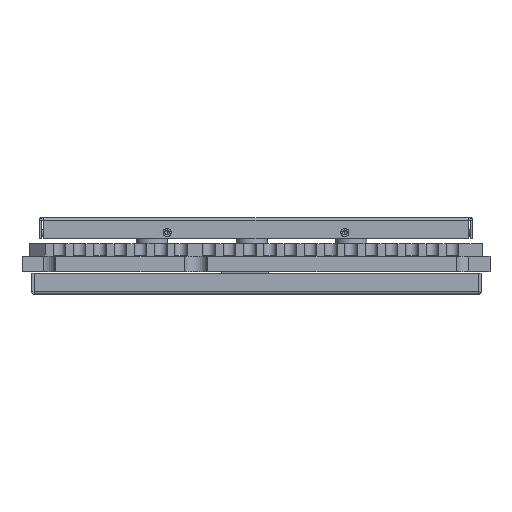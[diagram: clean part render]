
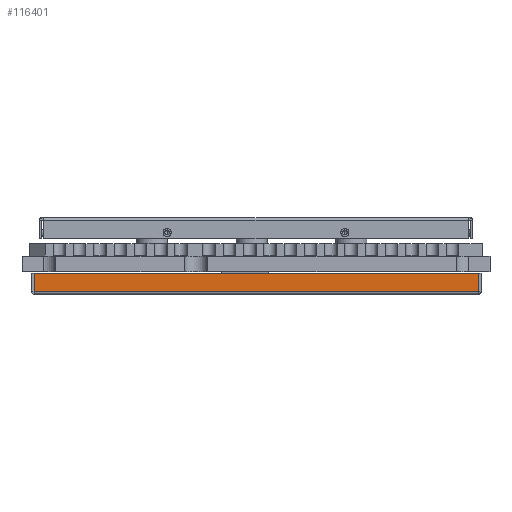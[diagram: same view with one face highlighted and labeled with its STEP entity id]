
A CAD part, front view. The second image highlights one B-rep face of the part: STEP entity #116401.
In plain terms, the highlighted planar face has unit normal (0, -1, 0) as drawn and (-1, 0, 0) by its records, which use the part's own axes.
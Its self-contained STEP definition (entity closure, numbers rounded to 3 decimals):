
#115781=DIRECTION('',(0.,0.,-1.));
#115782=VECTOR('',#115781,28.5);
#115783=CARTESIAN_POINT('',(-5.025,-0.15,14.25));
#115784=LINE('',#115783,#115782);
#115811=DIRECTION('',(0.,-1.,0.));
#115812=VECTOR('',#115811,1.2);
#115813=CARTESIAN_POINT('',(-5.025,-0.15,-14.25));
#115814=LINE('',#115813,#115812);
#115818=DIRECTION('',(0.,1.,0.));
#115819=VECTOR('',#115818,1.2);
#115820=CARTESIAN_POINT('',(-5.025,-1.35,14.25));
#115821=LINE('',#115820,#115819);
#115825=DIRECTION('',(0.,0.,1.));
#115826=VECTOR('',#115825,28.5);
#115827=CARTESIAN_POINT('',(-5.025,-1.35,-14.25));
#115828=LINE('',#115827,#115826);
#116201=CARTESIAN_POINT('',(-5.025,-0.15,-14.25));
#116202=CARTESIAN_POINT('',(-5.025,-1.35,-14.25));
#116203=VERTEX_POINT('',#116201);
#116204=VERTEX_POINT('',#116202);
#116205=CARTESIAN_POINT('',(-5.025,-1.35,14.25));
#116206=VERTEX_POINT('',#116205);
#116207=CARTESIAN_POINT('',(-5.025,-0.15,14.25));
#116208=VERTEX_POINT('',#116207);
#116387=CARTESIAN_POINT('',(-5.025,0.,-14.25));
#116388=DIRECTION('',(-1.,0.,0.));
#116389=DIRECTION('',(0.,0.,-1.));
#116390=AXIS2_PLACEMENT_3D('',#116387,#116388,#116389);
#116391=PLANE('',#116390);
#116393=ORIENTED_EDGE('',*,*,#116392,.F.);
#116394=ORIENTED_EDGE('',*,*,#116378,.F.);
#116396=ORIENTED_EDGE('',*,*,#116395,.F.);
#116398=ORIENTED_EDGE('',*,*,#116397,.F.);
#116399=EDGE_LOOP('',(#116393,#116394,#116396,#116398));
#116400=FACE_OUTER_BOUND('',#116399,.F.);
#116378=EDGE_CURVE('',#116208,#116203,#115784,.T.);
#116392=EDGE_CURVE('',#116203,#116204,#115814,.T.);
#116395=EDGE_CURVE('',#116206,#116208,#115821,.T.);
#116397=EDGE_CURVE('',#116204,#116206,#115828,.T.);
#116401=ADVANCED_FACE('',(#116400),#116391,.T.);
